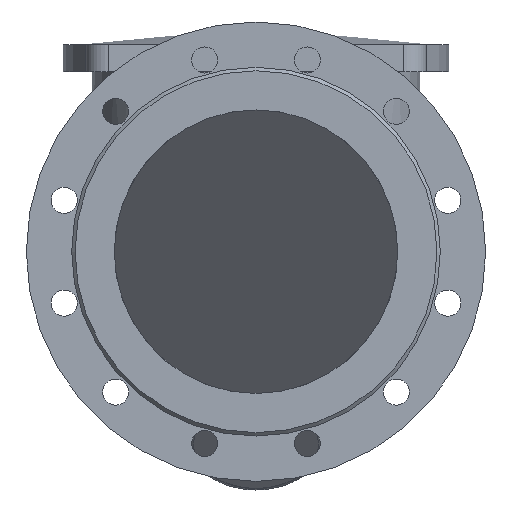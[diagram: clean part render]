
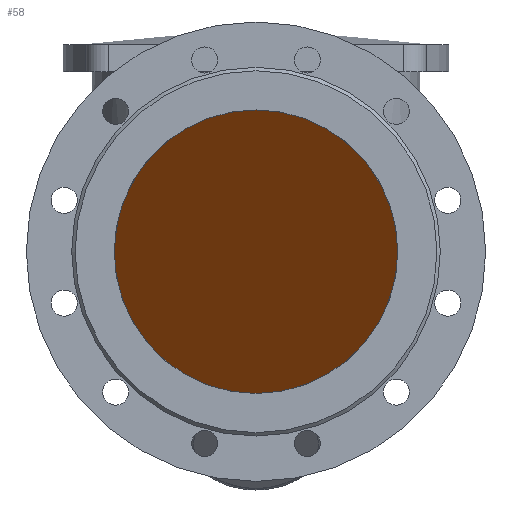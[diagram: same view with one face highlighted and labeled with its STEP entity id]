
A CAD part, front view. The second image highlights one B-rep face of the part: STEP entity #58.
In plain terms, the highlighted planar face has unit normal (0, -0.707, -0.707).
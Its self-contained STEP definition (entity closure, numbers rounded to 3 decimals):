
#58=ADVANCED_FACE('',(#734),#736,.T.);
#734=FACE_BOUND('',#735,.T.);
#735=EDGE_LOOP('',(#2681));
#736=PLANE('',#737);
#737=AXIS2_PLACEMENT_3D('',#738,#739,#740);
#738=CARTESIAN_POINT('',(-202.5,-166.141,166.141));
#739=DIRECTION('',(0.,-0.707,-0.707));
#740=DIRECTION('',(0.,0.707,-0.707));
#2681=ORIENTED_EDGE('',*,*,#2982,.T.);
#2982=EDGE_CURVE('',#3129,#3129,#3130,.F.);
#3129=VERTEX_POINT('',#3388);
#3130=(BOUNDED_CURVE()B_SPLINE_CURVE(3,
(#3389,#3390,#3391,#3392,#3393,#3394,#3395),
.UNSPECIFIED.,.T.,.F.)B_SPLINE_CURVE_WITH_KNOTS((4,3,4),
(0.,0.5,1.),
.UNSPECIFIED.)CURVE()GEOMETRIC_REPRESENTATION_ITEM()RATIONAL_B_SPLINE_CURVE((1.,
0.333,0.333,1.,0.333,0.333,1.))
REPRESENTATION_ITEM(''));
#3388=CARTESIAN_POINT('',(0.,-125.,125.));
#3389=CARTESIAN_POINT('',(0.,-125.,125.));
#3390=CARTESIAN_POINT('',(250.,-125.,125.));
#3391=CARTESIAN_POINT('',(250.,125.,-125.));
#3392=CARTESIAN_POINT('',(0.,125.,-125.));
#3393=CARTESIAN_POINT('',(-250.,125.,-125.));
#3394=CARTESIAN_POINT('',(-250.,-125.,125.));
#3395=CARTESIAN_POINT('',(0.,-125.,125.));
